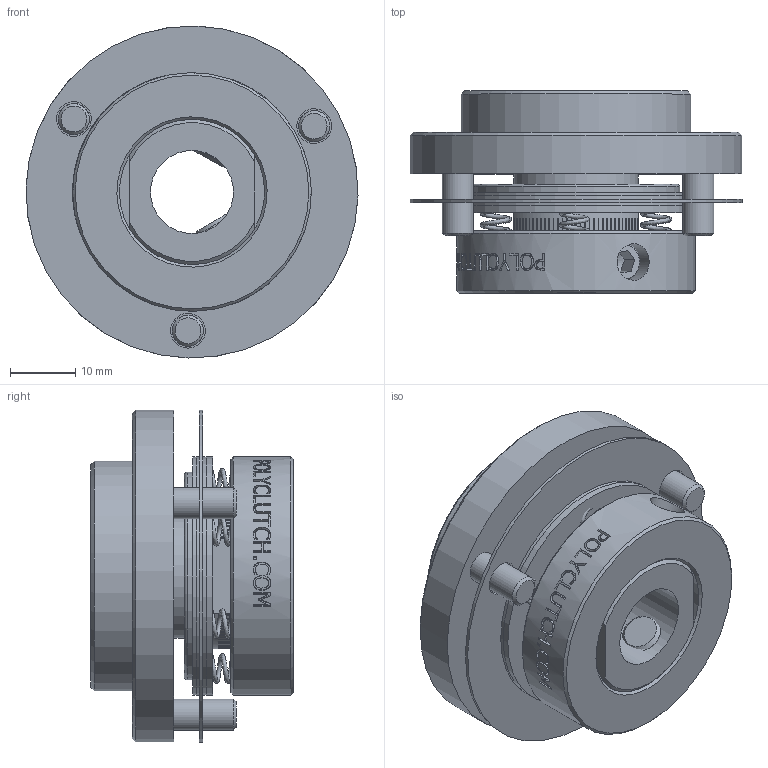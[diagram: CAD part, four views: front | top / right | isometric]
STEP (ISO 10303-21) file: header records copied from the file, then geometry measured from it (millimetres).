
FILE_DESCRIPTION((''),'2;1');
FILE_NAME('P:\Public\Organized 3D Clutch Assembly Files - Jessica\Slippers\Single Plate\Size 32\PFO32.stp','2013-01-31T15:04:57',('TodLob'),(''),'Autodesk Inventor 2011','Autodesk Inventor 2011','');
FILE_SCHEMA(('AUTOMOTIVE_DESIGN { 1 0 10303 214 1 1 1 1 }'));
Length unit declared in the file: inch
Products named in the file (13): PFO32; P3212; S3219; S3215; S3213; S3221; S3238; S3217-9-F; P3214F; P3209; P3223; Hexagon Socket Set Screw - Flat Point - Inch 1/4-28 UNF x 0.38; 8-10-8
Assembly tree (21 placements, depth 2):
  PFO32
    P3212
    S3219
    S3215
    S3213
    S3221  x2
    S3238
    S3217-9-F
    P3214F  x6
    P3209
    P3223  x3
    Hexagon Socket Set Screw - Flat Point - Inch 1/4-28 UNF x 0.38  x2
    8-10-8
Bounding box: 50.79 x 30.96 x 50.79 mm (x, y, z)
Volume: 30513.9 mm3; surface area: 26753 mm2
Topology: 21 solids, 21 shells, 674 faces, 1681 edges, 1065 vertices
Faces by surface type: plane 469, bspline 106, cylinder 64, cone 33, torus 2
Full cylindrical faces by diameter (mm): 4.763 x6, 4.851 x9, 5.309 x3, 5.613 x2, 6.35 x2, 12.7 x2, 15.875 x2, 19.05 x1, 19.101 x1, 22.225 x1, 22.327 x2, 23.8 x1, 31.75 x1, 35.179 x1, 36.5 x4, 36.513 x1, 50.8 x2
Entity records: 44368 total; most frequent: CARTESIAN_POINT 29464, ORIENTED_EDGE 3084, DIRECTION 2724, EDGE_CURVE 1542, VERTEX_POINT 1013, VECTOR 912, LINE 912, AXIS2_PLACEMENT_3D 906
